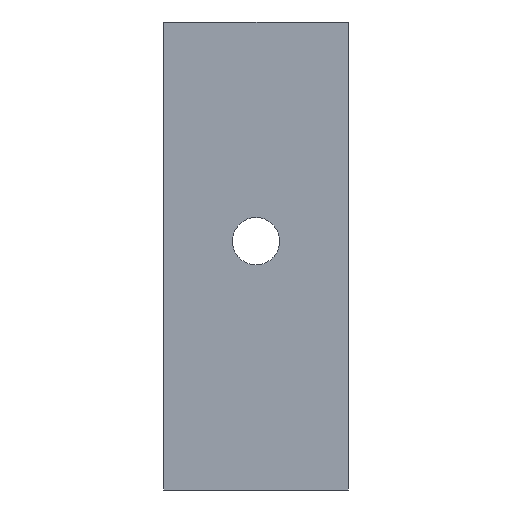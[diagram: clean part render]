
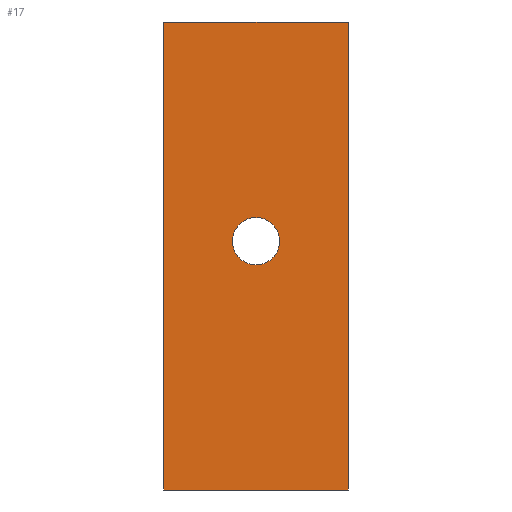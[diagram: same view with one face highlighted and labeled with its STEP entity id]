
A CAD part, left-side view. The second image highlights one B-rep face of the part: STEP entity #17.
In plain terms, the highlighted planar face has unit normal (-1, 0, 0).
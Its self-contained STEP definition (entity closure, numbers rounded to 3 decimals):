
#17 = ADVANCED_FACE('',(#18,#137),#32,.F.);
#18 = FACE_BOUND('',#19,.F.);
#19 = EDGE_LOOP('',(#20,#55,#83,#111));
#20 = ORIENTED_EDGE('',*,*,#21,.F.);
#21 = EDGE_CURVE('',#22,#24,#26,.T.);
#22 = VERTEX_POINT('',#23);
#23 = CARTESIAN_POINT('',(0.,-12.5,0.));
#24 = VERTEX_POINT('',#25);
#25 = CARTESIAN_POINT('',(0.,-12.5,63.3));
#26 = SURFACE_CURVE('',#27,(#31,#43),.PCURVE_S1.);
#27 = LINE('',#28,#29);
#28 = CARTESIAN_POINT('',(0.,-12.5,0.));
#29 = VECTOR('',#30,1.);
#30 = DIRECTION('',(0.,0.,1.));
#31 = PCURVE('',#32,#37);
#32 = PLANE('',#33);
#33 = AXIS2_PLACEMENT_3D('',#34,#35,#36);
#34 = CARTESIAN_POINT('',(0.,-12.5,0.));
#35 = DIRECTION('',(1.,0.,0.));
#36 = DIRECTION('',(0.,0.,1.));
#37 = DEFINITIONAL_REPRESENTATION('',(#38),#42);
#38 = LINE('',#39,#40);
#39 = CARTESIAN_POINT('',(0.,0.));
#40 = VECTOR('',#41,1.);
#41 = DIRECTION('',(1.,0.));
#42 = ( GEOMETRIC_REPRESENTATION_CONTEXT(2) 
PARAMETRIC_REPRESENTATION_CONTEXT() REPRESENTATION_CONTEXT('2D SPACE',''
  ) );
#43 = PCURVE('',#44,#49);
#44 = PLANE('',#45);
#45 = AXIS2_PLACEMENT_3D('',#46,#47,#48);
#46 = CARTESIAN_POINT('',(0.,-12.5,0.));
#47 = DIRECTION('',(0.,1.,0.));
#48 = DIRECTION('',(0.,0.,1.));
#49 = DEFINITIONAL_REPRESENTATION('',(#50),#54);
#50 = LINE('',#51,#52);
#51 = CARTESIAN_POINT('',(0.,0.));
#52 = VECTOR('',#53,1.);
#53 = DIRECTION('',(1.,0.));
#54 = ( GEOMETRIC_REPRESENTATION_CONTEXT(2) 
PARAMETRIC_REPRESENTATION_CONTEXT() REPRESENTATION_CONTEXT('2D SPACE',''
  ) );
#55 = ORIENTED_EDGE('',*,*,#56,.T.);
#56 = EDGE_CURVE('',#22,#57,#59,.T.);
#57 = VERTEX_POINT('',#58);
#58 = CARTESIAN_POINT('',(0.,12.5,0.));
#59 = SURFACE_CURVE('',#60,(#64,#71),.PCURVE_S1.);
#60 = LINE('',#61,#62);
#61 = CARTESIAN_POINT('',(0.,-12.5,0.));
#62 = VECTOR('',#63,1.);
#63 = DIRECTION('',(0.,1.,0.));
#64 = PCURVE('',#32,#65);
#65 = DEFINITIONAL_REPRESENTATION('',(#66),#70);
#66 = LINE('',#67,#68);
#67 = CARTESIAN_POINT('',(0.,0.));
#68 = VECTOR('',#69,1.);
#69 = DIRECTION('',(0.,-1.));
#70 = ( GEOMETRIC_REPRESENTATION_CONTEXT(2) 
PARAMETRIC_REPRESENTATION_CONTEXT() REPRESENTATION_CONTEXT('2D SPACE',''
  ) );
#71 = PCURVE('',#72,#77);
#72 = PLANE('',#73);
#73 = AXIS2_PLACEMENT_3D('',#74,#75,#76);
#74 = CARTESIAN_POINT('',(0.,-12.5,0.));
#75 = DIRECTION('',(0.,0.,1.));
#76 = DIRECTION('',(1.,0.,0.));
#77 = DEFINITIONAL_REPRESENTATION('',(#78),#82);
#78 = LINE('',#79,#80);
#79 = CARTESIAN_POINT('',(0.,0.));
#80 = VECTOR('',#81,1.);
#81 = DIRECTION('',(0.,1.));
#82 = ( GEOMETRIC_REPRESENTATION_CONTEXT(2) 
PARAMETRIC_REPRESENTATION_CONTEXT() REPRESENTATION_CONTEXT('2D SPACE',''
  ) );
#83 = ORIENTED_EDGE('',*,*,#84,.F.);
#84 = EDGE_CURVE('',#85,#57,#87,.T.);
#85 = VERTEX_POINT('',#86);
#86 = CARTESIAN_POINT('',(0.,12.5,63.3));
#87 = SURFACE_CURVE('',#88,(#92,#99),.PCURVE_S1.);
#88 = LINE('',#89,#90);
#89 = CARTESIAN_POINT('',(0.,12.5,63.3));
#90 = VECTOR('',#91,1.);
#91 = DIRECTION('',(0.,0.,-1.));
#92 = PCURVE('',#32,#93);
#93 = DEFINITIONAL_REPRESENTATION('',(#94),#98);
#94 = LINE('',#95,#96);
#95 = CARTESIAN_POINT('',(63.3,-25.));
#96 = VECTOR('',#97,1.);
#97 = DIRECTION('',(-1.,0.));
#98 = ( GEOMETRIC_REPRESENTATION_CONTEXT(2) 
PARAMETRIC_REPRESENTATION_CONTEXT() REPRESENTATION_CONTEXT('2D SPACE',''
  ) );
#99 = PCURVE('',#100,#105);
#100 = PLANE('',#101);
#101 = AXIS2_PLACEMENT_3D('',#102,#103,#104);
#102 = CARTESIAN_POINT('',(0.,12.5,0.));
#103 = DIRECTION('',(0.,1.,0.));
#104 = DIRECTION('',(0.,0.,1.));
#105 = DEFINITIONAL_REPRESENTATION('',(#106),#110);
#106 = LINE('',#107,#108);
#107 = CARTESIAN_POINT('',(63.3,0.));
#108 = VECTOR('',#109,1.);
#109 = DIRECTION('',(-1.,0.));
#110 = ( GEOMETRIC_REPRESENTATION_CONTEXT(2) 
PARAMETRIC_REPRESENTATION_CONTEXT() REPRESENTATION_CONTEXT('2D SPACE',''
  ) );
#111 = ORIENTED_EDGE('',*,*,#112,.F.);
#112 = EDGE_CURVE('',#24,#85,#113,.T.);
#113 = SURFACE_CURVE('',#114,(#118,#125),.PCURVE_S1.);
#114 = LINE('',#115,#116);
#115 = CARTESIAN_POINT('',(0.,-12.5,63.3));
#116 = VECTOR('',#117,1.);
#117 = DIRECTION('',(0.,1.,0.));
#118 = PCURVE('',#32,#119);
#119 = DEFINITIONAL_REPRESENTATION('',(#120),#124);
#120 = LINE('',#121,#122);
#121 = CARTESIAN_POINT('',(63.3,0.));
#122 = VECTOR('',#123,1.);
#123 = DIRECTION('',(0.,-1.));
#124 = ( GEOMETRIC_REPRESENTATION_CONTEXT(2) 
PARAMETRIC_REPRESENTATION_CONTEXT() REPRESENTATION_CONTEXT('2D SPACE',''
  ) );
#125 = PCURVE('',#126,#131);
#126 = PLANE('',#127);
#127 = AXIS2_PLACEMENT_3D('',#128,#129,#130);
#128 = CARTESIAN_POINT('',(0.,-12.5,63.3));
#129 = DIRECTION('',(0.,0.,1.));
#130 = DIRECTION('',(1.,0.,0.));
#131 = DEFINITIONAL_REPRESENTATION('',(#132),#136);
#132 = LINE('',#133,#134);
#133 = CARTESIAN_POINT('',(0.,0.));
#134 = VECTOR('',#135,1.);
#135 = DIRECTION('',(0.,1.));
#136 = ( GEOMETRIC_REPRESENTATION_CONTEXT(2) 
PARAMETRIC_REPRESENTATION_CONTEXT() REPRESENTATION_CONTEXT('2D SPACE',''
  ) );
#137 = FACE_BOUND('',#138,.F.);
#138 = EDGE_LOOP('',(#139));
#139 = ORIENTED_EDGE('',*,*,#140,.F.);
#140 = EDGE_CURVE('',#141,#141,#143,.T.);
#141 = VERTEX_POINT('',#142);
#142 = CARTESIAN_POINT('',(-0.,3.2,33.65));
#143 = SURFACE_CURVE('',#144,(#149,#156),.PCURVE_S1.);
#144 = CIRCLE('',#145,3.2);
#145 = AXIS2_PLACEMENT_3D('',#146,#147,#148);
#146 = CARTESIAN_POINT('',(0.,0.,33.65));
#147 = DIRECTION('',(1.,0.,0.));
#148 = DIRECTION('',(0.,1.,0.));
#149 = PCURVE('',#32,#150);
#150 = DEFINITIONAL_REPRESENTATION('',(#151),#155);
#151 = CIRCLE('',#152,3.2);
#152 = AXIS2_PLACEMENT_2D('',#153,#154);
#153 = CARTESIAN_POINT('',(33.65,-12.5));
#154 = DIRECTION('',(0.,-1.));
#155 = ( GEOMETRIC_REPRESENTATION_CONTEXT(2) 
PARAMETRIC_REPRESENTATION_CONTEXT() REPRESENTATION_CONTEXT('2D SPACE',''
  ) );
#156 = PCURVE('',#157,#162);
#157 = CYLINDRICAL_SURFACE('',#158,3.2);
#158 = AXIS2_PLACEMENT_3D('',#159,#160,#161);
#159 = CARTESIAN_POINT('',(0.,0.,33.65));
#160 = DIRECTION('',(1.,0.,0.));
#161 = DIRECTION('',(0.,1.,0.));
#162 = DEFINITIONAL_REPRESENTATION('',(#163),#167);
#163 = LINE('',#164,#165);
#164 = CARTESIAN_POINT('',(0.,0.));
#165 = VECTOR('',#166,1.);
#166 = DIRECTION('',(1.,0.));
#167 = ( GEOMETRIC_REPRESENTATION_CONTEXT(2) 
PARAMETRIC_REPRESENTATION_CONTEXT() REPRESENTATION_CONTEXT('2D SPACE',''
  ) );
